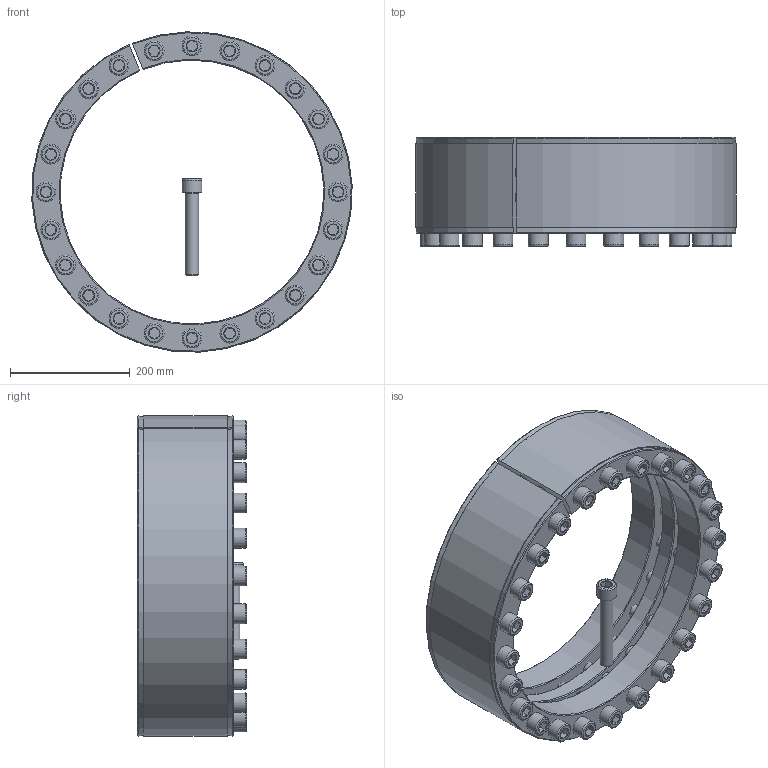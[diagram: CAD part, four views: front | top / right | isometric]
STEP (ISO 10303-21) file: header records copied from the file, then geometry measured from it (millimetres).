
FILE_DESCRIPTION( ( 'Unknown' ), '1' );
FILE_NAME( 'C:/Users/Frank/Eigene Daten/CAD/Solid Edge/KBK Karpstein/KBS Layout Baureihen/KBS 18/KBS 18 - 440 x 535.stp', 'Unknown', ( 'Unknown' ), ( 'Unknown' ), 'XStep 1.0', 'Unknown', ' ' );
FILE_SCHEMA( ( 'automotive_design' ) );
Length unit declared in the file: millimetre
Products named in the file (3): Assem1; ISO EN DIN 4762 M22x140; KBS 18 - 440 x 535
Bounding box: 534.45 x 182 x 534.58 mm (x, y, z)
Volume: 18839411.3 mm3; surface area: 2395381.1 mm2
Topology: 27 solids, 27 shells, 821 faces, 1703 edges, 1036 vertices
Faces by surface type: plane 320, cylinder 252, cone 199, torus 50
Full cylindrical faces by diameter (mm): 18 x25, 19.294 x48, 22 x50, 24 x96, 33 x25
Entity records: 4878 total; most frequent: CARTESIAN_POINT 757, DIRECTION 704, ORIENTED_EDGE 502, EDGE_LOOP 350, AXIS2_PLACEMENT_3D 334, EDGE_CURVE 251, VERTEX_POINT 215, FACE_OUTER_BOUND 201
